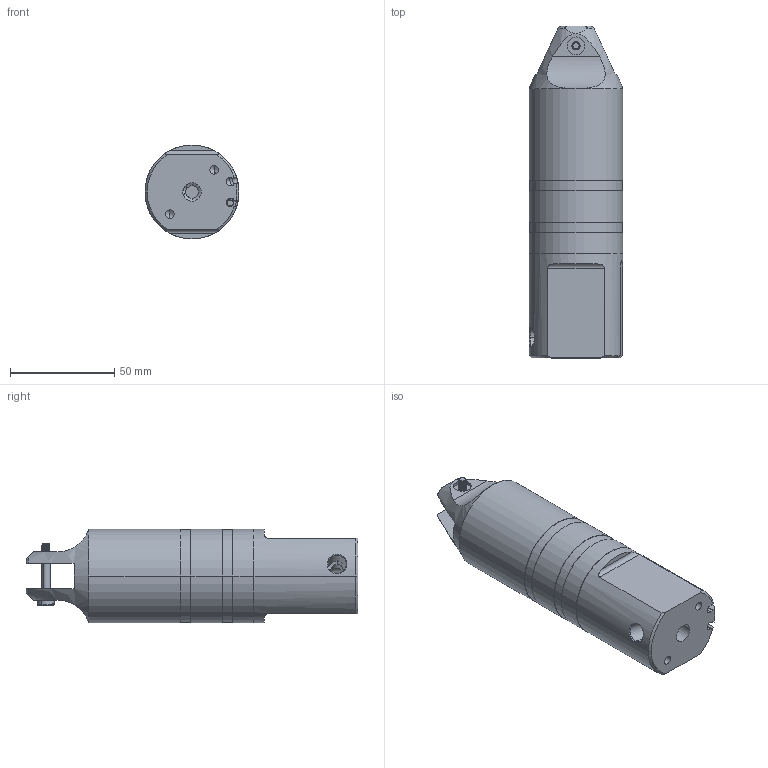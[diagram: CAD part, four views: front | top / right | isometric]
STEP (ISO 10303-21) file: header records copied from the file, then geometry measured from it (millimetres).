
FILE_DESCRIPTION (( 'STEP AP203' ), '1' );
FILE_NAME ('2CRG-NR20P-S.STEP', '2023-12-22T08:07:14', ( '' ), ( '' ), 'SwSTEP 2.0', 'SolidWorks 2018', '' );
FILE_SCHEMA (( 'CONFIG_CONTROL_DESIGN' ));
Length unit declared in the file: millimetre
Products named in the file (1): 2CRG-NR20P-S
Bounding box: 45 x 159 x 45 mm (x, y, z)
Volume: 177802.6 mm3; surface area: 32851.2 mm2
Topology: 1 solids, 1 shells, 192 faces, 518 edges, 337 vertices
Faces by surface type: cylinder 95, plane 66, cone 21, bspline 4, torus 4, sphere 2
Entity records: 9956 total; most frequent: CARTESIAN_POINT 5202, ORIENTED_EDGE 1020, DIRECTION 956, EDGE_CURVE 510, AXIS2_PLACEMENT_3D 366, VERTEX_POINT 335, VECTOR 224, LINE 224
